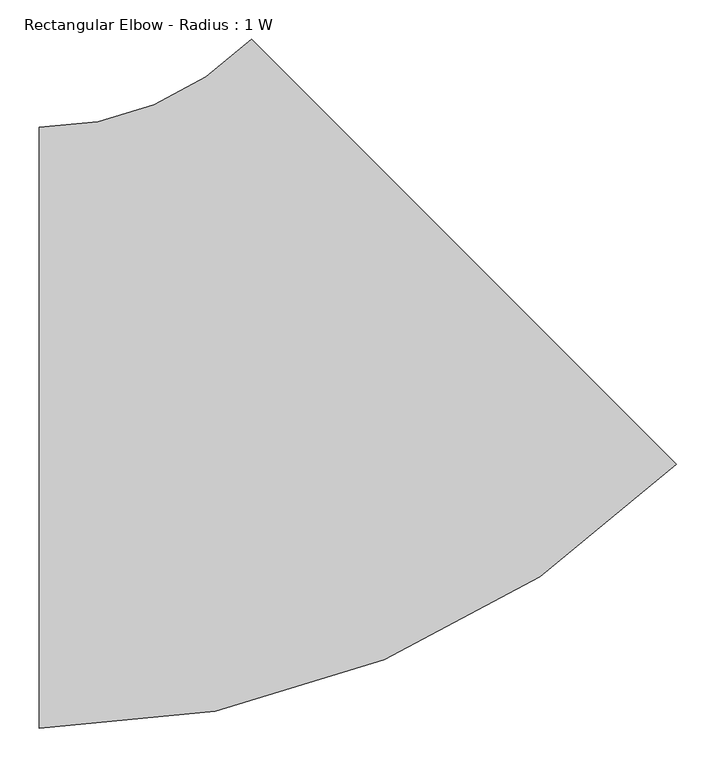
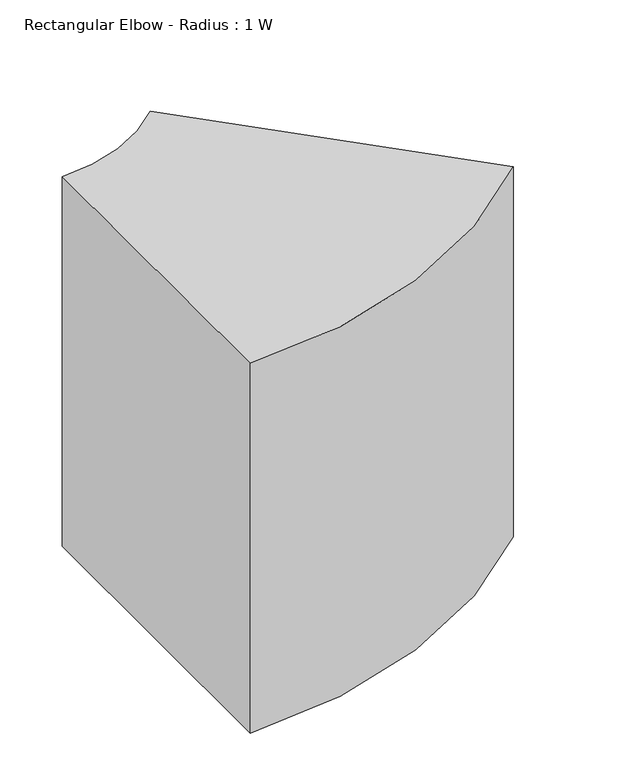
"""IFC4 building model written with IfcOpenShell, lengths in millimetres: duct fitting geometry, Rectangular Elbow - Radius : 1 W."""

from ifc_helpers import new_model, si_unit, point, frame, frame_2d, origin, place, context, project, spatial, polyline, circle_curve, trimmed, segment, composite_curve, outline, extrude, source, transform, mapped, element, save


def rectangular_elbow_radius_1_w_3c7c7018(model_context):
    return source(origin(), model_context, "Body", "SweptSolid", [
        extrude(outline(composite_curve([segment(trimmed(circle_curve(frame_2d((-315.6307345, 762.0)), 1143.0), [point((492.5923164, -46.2230509))], [point((-315.6307345, -381.0))], False, "CARTESIAN"), True, "CONTINUOUS"), segment(polyline([(-315.6307345, -381.0), (-315.6307345, 381.0)]), True, "CONTINUOUS"), segment(trimmed(circle_curve(frame_2d((-315.6307345, 762.0)), 381.0), [point((-315.6307345, 381.0))], [point((-46.2230509, 492.5923164))], True, "CARTESIAN"), True, "CONTINUOUS"), segment(polyline([(-46.2230509, 492.5923164), (492.5923164, -46.2230509)]), True, "CONTINUOUS")], self_intersect=False)), frame((0.0, 0.0, -457.2), z_axis=(0.0, 0.0, 1.0), x_axis=(1.0, 0.0, 0.0)), (0.0, 0.0, 1.0), 914.4),
    ])


if __name__ == "__main__":
    model = new_model("IFC4")
    model_context = context("Model", 3, world=origin())
    ifc_project = project(units=[si_unit("LENGTHUNIT", "METRE", prefix="MILLI")], contexts=[model_context])
    site = spatial("IfcSite", under=ifc_project)
    building = spatial("IfcBuilding", under=site)
    placement = place(None, origin())
    rectangular_elbow_radius_1_w_shape = rectangular_elbow_radius_1_w_3c7c7018(model_context)
    element("IfcDuctFitting", 1, ObjectType="Rectangular Elbow - Radius : 1 W", at=placement, inside=building, context=model_context, shape_type="MappedRepresentation", body=[
        mapped(rectangular_elbow_radius_1_w_shape, transform((0.0, 0.0, 0.0), x_axis=(1.0, 0.0, 0.0), y_axis=(0.0, 1.0, 0.0), z_axis=(0.0, 0.0, 1.0))),
    ])
    save(model, "model.ifc")
